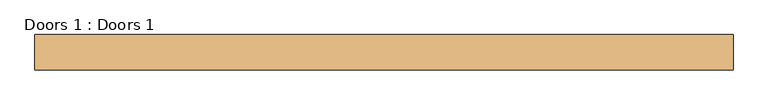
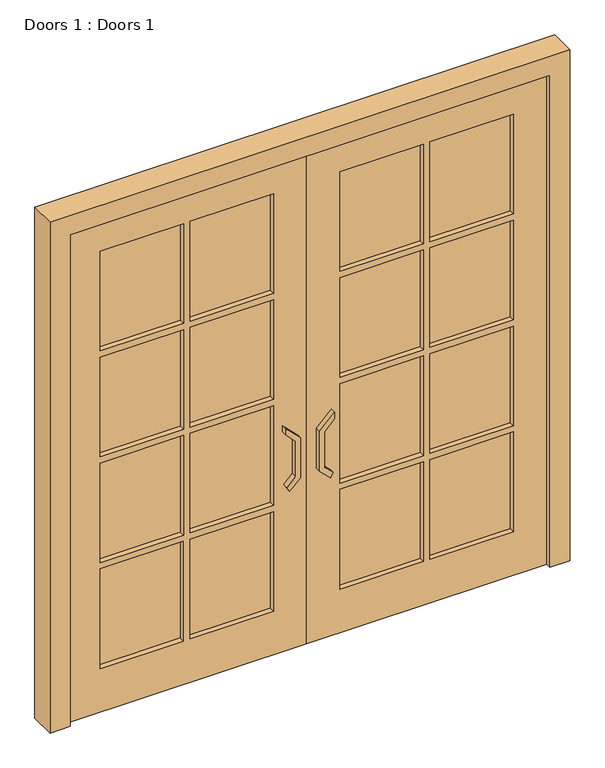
"""IFC4 building model written with IfcOpenShell, lengths in millimetres: door geometry, Doors 1 : Doors 1."""

from ifc_helpers import new_model, si_unit, frame, origin, place, context, project, spatial, polyline, outline, extrude, source, transform, mapped, element, save


def doors_1_doors_1_441175f9(model_context):
    return source(origin(), model_context, "Body", "SweptSolid", [
        extrude(outline(polyline([(5354.8779249, 5752.0084535), (5194.8779249, 5752.0084535), (5154.6611484, 5792.22523), (5172.3207257, 5802.4209917), (5205.0555944, 5769.6861231), (5347.5555944, 5769.6861231), (5386.4464673, 5808.576996), (5411.4464673, 5808.576996), (5354.8779249, 5752.0084535)])), frame((0.0, -15215.1933026, 0.0), z_axis=(0.0, 1.0, 0.0), x_axis=(0.0, 0.0, 1.0)), (0.0, 0.0, 1.0), 80.0),
        extrude(outline(polyline([(5354.8779249, 5678.0316477), (5411.4464673, 5621.4631052), (5386.4464673, 5621.4631052), (5347.5555944, 5660.3539782), (5205.0555944, 5660.3539782), (5172.3207257, 5627.6191095), (5154.6611484, 5637.8148712), (5194.8779249, 5678.0316477), (5354.8779249, 5678.0316477)])), frame((0.0, -15215.1933026, 0.0), z_axis=(0.0, 1.0, 0.0), x_axis=(0.0, 0.0, 1.0)), (0.0, 0.0, 1.0), 80.0),
        extrude(outline(polyline([(6185.0200506, -15157.8260678), (6503.0200506, -15157.8260678), (6503.0200506, -15172.5860208), (6185.0200506, -15172.5860208), (6185.0200506, -15157.8260678)])), frame((0.0, 0.0, 5954.5), z_axis=(0.0, 0.0, 1.0), x_axis=(1.0, 0.0, 0.0)), (0.0, 0.0, 1.0), 401.5),
        extrude(outline(polyline([(5842.0200506, -15157.8260678), (6160.0200506, -15157.8260678), (6160.0200506, -15172.5860208), (5842.0200506, -15172.5860208), (5842.0200506, -15157.8260678)])), frame((0.0, 0.0, 5954.5), z_axis=(0.0, 0.0, 1.0), x_axis=(1.0, 0.0, 0.0)), (0.0, 0.0, 1.0), 401.5),
        extrude(outline(polyline([(6185.0200506, -15157.8260678), (6503.0200506, -15157.8260678), (6503.0200506, -15172.5860208), (6185.0200506, -15172.5860208), (6185.0200506, -15157.8260678)])), frame((0.0, 0.0, 5528.0), z_axis=(0.0, 0.0, 1.0), x_axis=(1.0, 0.0, 0.0)), (0.0, 0.0, 1.0), 401.5),
        extrude(outline(polyline([(5842.0200506, -15157.8260678), (6160.0200506, -15157.8260678), (6160.0200506, -15172.5860208), (5842.0200506, -15172.5860208), (5842.0200506, -15157.8260678)])), frame((0.0, 0.0, 5528.0), z_axis=(0.0, 0.0, 1.0), x_axis=(1.0, 0.0, 0.0)), (0.0, 0.0, 1.0), 401.5),
        extrude(outline(polyline([(6185.0200506, -15157.8260678), (6503.0200506, -15157.8260678), (6503.0200506, -15172.5860208), (6185.0200506, -15172.5860208), (6185.0200506, -15157.8260678)])), frame((0.0, 0.0, 5101.5), z_axis=(0.0, 0.0, 1.0), x_axis=(1.0, 0.0, 0.0)), (0.0, 0.0, 1.0), 401.5),
        extrude(outline(polyline([(5842.0200506, -15157.8260678), (6160.0200506, -15157.8260678), (6160.0200506, -15172.5860208), (5842.0200506, -15172.5860208), (5842.0200506, -15157.8260678)])), frame((0.0, 0.0, 5101.5), z_axis=(0.0, 0.0, 1.0), x_axis=(1.0, 0.0, 0.0)), (0.0, 0.0, 1.0), 401.5),
        extrude(outline(polyline([(6185.4779456, -15157.8260678), (6503.0200506, -15157.8260678), (6503.0200506, -15172.5860208), (6185.4779456, -15172.5860208), (6185.4779456, -15157.8260678)])), frame((0.0, 0.0, 4675.0), z_axis=(0.0, 0.0, 1.0), x_axis=(1.0, 0.0, 0.0)), (0.0, 0.0, 1.0), 401.5),
        extrude(outline(polyline([(5842.0200506, -15157.8260678), (6160.0200506, -15157.8260678), (6160.0200506, -15172.5860208), (5842.0200506, -15172.5860208), (5842.0200506, -15157.8260678)])), frame((0.0, 0.0, 4675.0), z_axis=(0.0, 0.0, 1.0), x_axis=(1.0, 0.0, 0.0)), (0.0, 0.0, 1.0), 401.5),
        extrude(outline(polyline([(6481.0, 5715.0200506), (4500.0, 5715.0200506), (4500.0, 6630.0200506), (6481.0, 6630.0200506), (6481.0, 5715.0200506)]), holes=[polyline([(6356.0, 6185.0200506), (6356.0, 6503.0200506), (5954.5, 6503.0200506), (5954.5, 6185.0200506), (6356.0, 6185.0200506)]), polyline([(5929.5, 6185.0200506), (5929.5, 6503.0200506), (5528.0, 6503.0200506), (5528.0, 6185.0200506), (5929.5, 6185.0200506)]), polyline([(5503.0, 6185.0200506), (5503.0, 6503.0200506), (5101.5, 6503.0200506), (5101.5, 6185.0200506), (5503.0, 6185.0200506)]), polyline([(5076.5, 6185.4779456), (5076.5, 6503.0200506), (4675.0, 6503.0200506), (4675.0, 6185.4779456), (5076.5, 6185.4779456)]), polyline([(5076.5, 5842.0200506), (5076.5, 6160.0200506), (4675.0, 6160.0200506), (4675.0, 5842.0200506), (5076.5, 5842.0200506)]), polyline([(5503.0, 5842.0200506), (5503.0, 6160.0200506), (5101.5, 6160.0200506), (5101.5, 5842.0200506), (5503.0, 5842.0200506)]), polyline([(5929.5, 5842.0200506), (5929.5, 6160.0200506), (5528.0, 6160.0200506), (5528.0, 5842.0200506), (5929.5, 5842.0200506)]), polyline([(6356.0, 5842.0200506), (6356.0, 6160.0200506), (5954.5, 6160.0200506), (5954.5, 5842.0200506), (6356.0, 5842.0200506)])]), frame((0.0, -15193.2936468, 0.0), z_axis=(0.0, 1.0, 0.0), x_axis=(0.0, 0.0, 1.0)), (0.0, 0.0, 1.0), 59.0758308),
        extrude(outline(polyline([(4927.0200506, -15157.8260678), (5245.0200506, -15157.8260678), (5245.0200506, -15172.5860208), (4927.0200506, -15172.5860208), (4927.0200506, -15157.8260678)])), frame((0.0, 0.0, 5954.5), z_axis=(0.0, 0.0, 1.0), x_axis=(1.0, 0.0, 0.0)), (0.0, 0.0, 1.0), 401.5),
        extrude(outline(polyline([(5270.0200506, -15157.8260678), (5588.0200506, -15157.8260678), (5588.0200506, -15172.5860208), (5270.0200506, -15172.5860208), (5270.0200506, -15157.8260678)])), frame((0.0, 0.0, 5954.5), z_axis=(0.0, 0.0, 1.0), x_axis=(1.0, 0.0, 0.0)), (0.0, 0.0, 1.0), 401.5),
        extrude(outline(polyline([(4927.0200506, -15157.8260678), (5245.0200506, -15157.8260678), (5245.0200506, -15172.5860208), (4927.0200506, -15172.5860208), (4927.0200506, -15157.8260678)])), frame((0.0, 0.0, 5528.0), z_axis=(0.0, 0.0, 1.0), x_axis=(1.0, 0.0, 0.0)), (0.0, 0.0, 1.0), 401.5),
        extrude(outline(polyline([(5270.0200506, -15157.8260678), (5588.0200506, -15157.8260678), (5588.0200506, -15172.5860208), (5270.0200506, -15172.5860208), (5270.0200506, -15157.8260678)])), frame((0.0, 0.0, 5528.0), z_axis=(0.0, 0.0, 1.0), x_axis=(1.0, 0.0, 0.0)), (0.0, 0.0, 1.0), 401.5),
        extrude(outline(polyline([(4927.0200506, -15157.8260678), (5245.0200506, -15157.8260678), (5245.0200506, -15172.5860208), (4927.0200506, -15172.5860208), (4927.0200506, -15157.8260678)])), frame((0.0, 0.0, 5101.5), z_axis=(0.0, 0.0, 1.0), x_axis=(1.0, 0.0, 0.0)), (0.0, 0.0, 1.0), 401.5),
        extrude(outline(polyline([(5270.0200506, -15157.8260678), (5588.0200506, -15157.8260678), (5588.0200506, -15172.5860208), (5270.0200506, -15172.5860208), (5270.0200506, -15157.8260678)])), frame((0.0, 0.0, 5101.5), z_axis=(0.0, 0.0, 1.0), x_axis=(1.0, 0.0, 0.0)), (0.0, 0.0, 1.0), 401.5),
        extrude(outline(polyline([(4927.0200506, -15157.8260678), (5244.5621557, -15157.8260678), (5244.5621557, -15172.5860208), (4927.0200506, -15172.5860208), (4927.0200506, -15157.8260678)])), frame((0.0, 0.0, 4675.0), z_axis=(0.0, 0.0, 1.0), x_axis=(1.0, 0.0, 0.0)), (0.0, 0.0, 1.0), 401.5),
        extrude(outline(polyline([(5270.0200506, -15157.8260678), (5588.0200506, -15157.8260678), (5588.0200506, -15172.5860208), (5270.0200506, -15172.5860208), (5270.0200506, -15157.8260678)])), frame((0.0, 0.0, 4675.0), z_axis=(0.0, 0.0, 1.0), x_axis=(1.0, 0.0, 0.0)), (0.0, 0.0, 1.0), 401.5),
        extrude(outline(polyline([(6481.0, 5715.0200506), (6481.0, 4800.0200506), (4500.0, 4800.0200506), (4500.0, 5715.0200506), (6481.0, 5715.0200506)]), holes=[polyline([(6356.0, 5245.0200506), (5954.5, 5245.0200506), (5954.5, 4927.0200506), (6356.0, 4927.0200506), (6356.0, 5245.0200506)]), polyline([(5929.5, 5245.0200506), (5528.0, 5245.0200506), (5528.0, 4927.0200506), (5929.5, 4927.0200506), (5929.5, 5245.0200506)]), polyline([(5503.0, 5245.0200506), (5101.5, 5245.0200506), (5101.5, 4927.0200506), (5503.0, 4927.0200506), (5503.0, 5245.0200506)]), polyline([(5076.5, 5244.5621557), (4675.0, 5244.5621557), (4675.0, 4927.0200506), (5076.5, 4927.0200506), (5076.5, 5244.5621557)]), polyline([(5076.5, 5588.0200506), (4675.0, 5588.0200506), (4675.0, 5270.0200506), (5076.5, 5270.0200506), (5076.5, 5588.0200506)]), polyline([(5503.0, 5588.0200506), (5101.5, 5588.0200506), (5101.5, 5270.0200506), (5503.0, 5270.0200506), (5503.0, 5588.0200506)]), polyline([(5929.5, 5588.0200506), (5528.0, 5588.0200506), (5528.0, 5270.0200506), (5929.5, 5270.0200506), (5929.5, 5588.0200506)]), polyline([(6356.0, 5588.0200506), (5954.5, 5588.0200506), (5954.5, 5270.0200506), (6356.0, 5270.0200506), (6356.0, 5588.0200506)])]), frame((0.0, -15193.2936468, 0.0), z_axis=(0.0, 1.0, 0.0), x_axis=(0.0, 0.0, 1.0)), (0.0, 0.0, 1.0), 59.0758308),
        extrude(outline(polyline([(6557.0, 6706.0200506), (6557.0, 4724.0200506), (4500.0, 4724.0200506), (4500.0, 4800.0200506), (6481.0, 4800.0200506), (6481.0, 6630.0200506), (4500.0, 6630.0200506), (4500.0, 6706.0200506), (6557.0, 6706.0200506)])), frame((0.0, -15215.1933026, 0.0), z_axis=(0.0, 1.0, 0.0), x_axis=(0.0, 0.0, 1.0)), (0.0, 0.0, 1.0), 100.0),
    ])


if __name__ == "__main__":
    model = new_model("IFC4")
    model_context = context("Model", 3, world=origin())
    ifc_project = project(units=[si_unit("LENGTHUNIT", "METRE", prefix="MILLI")], contexts=[model_context])
    site = spatial("IfcSite", under=ifc_project)
    building = spatial("IfcBuilding", under=site)
    placement = place(None, origin())
    doors_1_doors_1_shape = doors_1_doors_1_441175f9(model_context)
    element("IfcDoor", 1, ObjectType="Doors 1 : Doors 1", at=placement, inside=building, context=model_context, shape_type="MappedRepresentation", body=[
        mapped(doors_1_doors_1_shape, transform((0.0, 0.0, 0.0), x_axis=(1.0, 0.0, 0.0), y_axis=(0.0, 1.0, 0.0), z_axis=(0.0, 0.0, 1.0))),
    ])
    save(model, "model.ifc")
